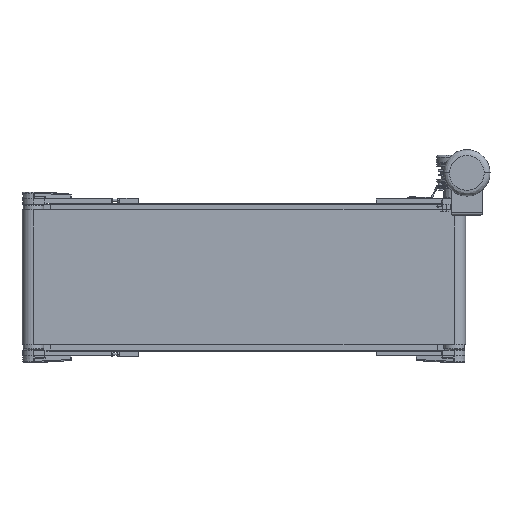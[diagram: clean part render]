
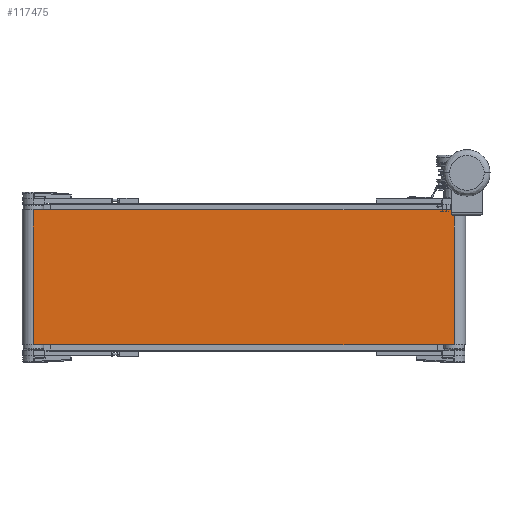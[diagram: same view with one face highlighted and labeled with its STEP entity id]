
A CAD part, front view. The second image highlights one B-rep face of the part: STEP entity #117475.
In plain terms, the highlighted planar face has unit normal (0, -1, 0).
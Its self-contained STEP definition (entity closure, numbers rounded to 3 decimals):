
#290 = DIRECTION ( 'NONE',  ( 0., 0., -1. ) ) ;
#3719 = CARTESIAN_POINT ( 'NONE',  ( -500., -27., 160. ) ) ;
#8884 = VERTEX_POINT ( 'NONE', #19167 ) ;
#9132 = CARTESIAN_POINT ( 'NONE',  ( 500., -27., -160. ) ) ;
#14141 = VERTEX_POINT ( 'NONE', #78776 ) ;
#17336 = DIRECTION ( 'NONE',  ( 1., 0., 0. ) ) ;
#19167 = CARTESIAN_POINT ( 'NONE',  ( 500., -27., 160. ) ) ;
#23621 = FACE_OUTER_BOUND ( 'NONE', #87387, .T. ) ;
#24272 = DIRECTION ( 'NONE',  ( 0., 1., 0. ) ) ;
#27169 = ORIENTED_EDGE ( 'NONE', *, *, #34508, .T. ) ;
#31666 = CARTESIAN_POINT ( 'NONE',  ( 500., -27., 160. ) ) ;
#34508 = EDGE_CURVE ( 'NONE', #126357, #14141, #95873, .T. ) ;
#41466 = ORIENTED_EDGE ( 'NONE', *, *, #60807, .F. ) ;
#48053 = LINE ( 'NONE', #118860, #80320 ) ;
#52384 = LINE ( 'NONE', #31666, #119325 ) ;
#56423 = ORIENTED_EDGE ( 'NONE', *, *, #102514, .F. ) ;
#56757 = VERTEX_POINT ( 'NONE', #9132 ) ;
#60807 = EDGE_CURVE ( 'NONE', #8884, #56757, #52384, .T. ) ;
#76352 = DIRECTION ( 'NONE',  ( 0., 0., 1. ) ) ;
#78776 = CARTESIAN_POINT ( 'NONE',  ( -500., -27., -160. ) ) ;
#80320 = VECTOR ( 'NONE', #17336, 1000. ) ;
#87387 = EDGE_LOOP ( 'NONE', ( #129468, #41466, #56423, #27169 ) ) ;
#93503 = CARTESIAN_POINT ( 'NONE',  ( -500., -27., 160. ) ) ;
#95873 = LINE ( 'NONE', #3719, #126740 ) ;
#99771 = VECTOR ( 'NONE', #102512, 1000. ) ;
#100049 = AXIS2_PLACEMENT_3D ( 'NONE', #105071, #24272, #76352 ) ;
#102512 = DIRECTION ( 'NONE',  ( 1., 0., 0. ) ) ;
#102514 = EDGE_CURVE ( 'NONE', #126357, #8884, #48053, .T. ) ;
#105071 = CARTESIAN_POINT ( 'NONE',  ( -500., -27., 160. ) ) ;
#112542 = LINE ( 'NONE', #115172, #99771 ) ;
#115172 = CARTESIAN_POINT ( 'NONE',  ( -500., -27., -160. ) ) ;
#115765 = PLANE ( 'NONE',  #100049 ) ;
#117475 = ADVANCED_FACE ( 'NONE', ( #23621 ), #115765, .F. ) ;
#118860 = CARTESIAN_POINT ( 'NONE',  ( -500., -27., 160. ) ) ;
#119325 = VECTOR ( 'NONE', #290, 1000. ) ;
#122261 = EDGE_CURVE ( 'NONE', #14141, #56757, #112542, .T. ) ;
#125927 = DIRECTION ( 'NONE',  ( 0., 0., -1. ) ) ;
#126357 = VERTEX_POINT ( 'NONE', #93503 ) ;
#126740 = VECTOR ( 'NONE', #125927, 1000. ) ;
#129468 = ORIENTED_EDGE ( 'NONE', *, *, #122261, .T. ) ;
